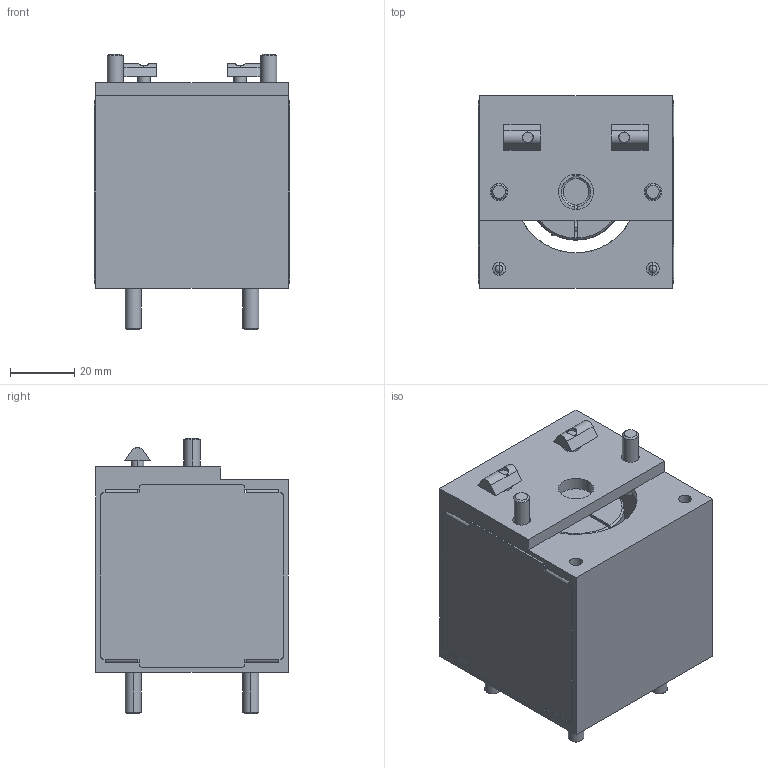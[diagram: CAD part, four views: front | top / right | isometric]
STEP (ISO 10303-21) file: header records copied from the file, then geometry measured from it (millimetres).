
FILE_DESCRIPTION((''),'2;1');
FILE_NAME('LCB040KL','2005-05-19T',('OZ38835'),(''),'PRO/ENGINEER BY PARAMETRIC TECHNOLOGY CORPORATION, 2003400','PRO/ENGINEER BY PARAMETRIC TECHNOLOGY CORPORATION, 2003400','');
FILE_SCHEMA(('AUTOMOTIVE_DESIGN_CC2 { 1 2 10303 214 -1 1 5 2 }'));
Length unit declared in the file: millimetre
Products named in the file (1): LCB040KL
Bounding box: 61 x 60 x 86 mm (x, y, z)
Volume: 68212.3 mm3; surface area: 51963.1 mm2
Topology: 2 solids, 2 shells, 635 faces, 1688 edges, 1062 vertices
Faces by surface type: plane 302, cylinder 215, torus 52, cone 38, sphere 28
Entity records: 28725 total; most frequent: CARTESIAN_POINT 4476, DIRECTION 3516, ORIENTED_EDGE 3320, PRESENTATION_STYLE_ASSIGNMENT 2079, STYLED_ITEM 1662, CURVE_STYLE 1660, EDGE_CURVE 1660, AXIS2_PLACEMENT_3D 1307
